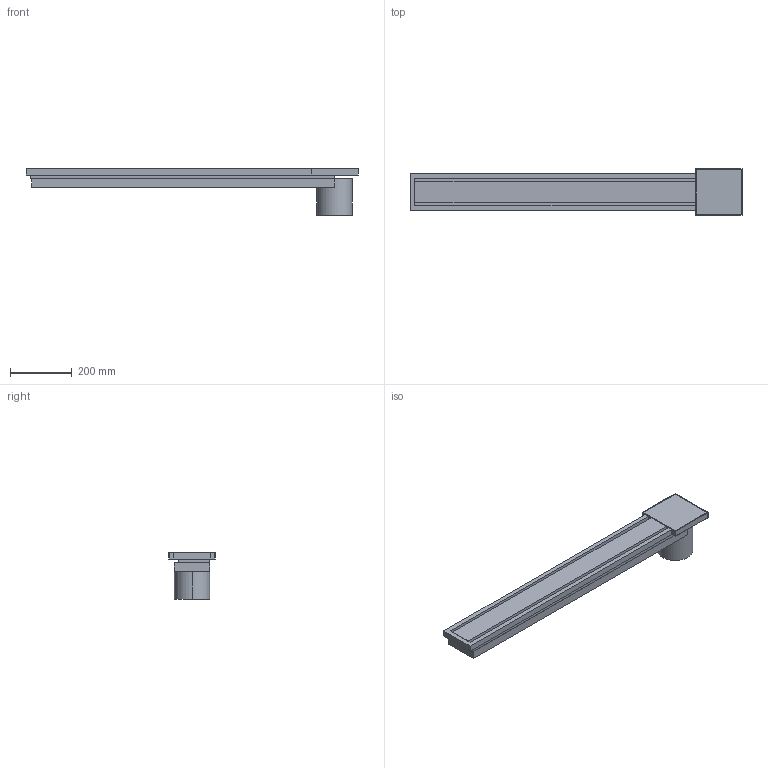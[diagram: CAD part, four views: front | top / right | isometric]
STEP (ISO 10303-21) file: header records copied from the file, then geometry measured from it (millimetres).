
FILE_DESCRIPTION(/* description */ (''),/* implementation_level */ '2;1');
FILE_NAME(/* name */ 'E:\Workspace\resitec\Packs\Kategorie\Entwässerungsrinne\STP\RS770.15.150Entwässerungsrinne mit Auslaufkasten151mm-Ende.s.ipt.stp',/* time_stamp */ '2020-10-04T20:56:05+02:00',/* author */ ('ndmes'),/* organization */ (''),/* preprocessor_version */ 'ST-DEVELOPER v18.1',/* originating_system */ 'Autodesk Inventor 2021',/* authorisation */ '');
FILE_SCHEMA (('AUTOMOTIVE_DESIGN { 1 0 10303 214 3 1 1 }'));
Length unit declared in the file: millimetre
Products named in the file (1): RS770.15.150Entwässerungsrinne mit Auslaufkasten151mm-Ende.s
Bounding box: 1075.5 x 151 x 150 mm (x, y, z)
Volume: 7890764.7 mm3; surface area: 961097.5 mm2
Topology: 7 solids, 7 shells, 48 faces, 102 edges, 68 vertices
Faces by surface type: plane 46, cylinder 2
Entity records: 1309 total; most frequent: CARTESIAN_POINT 219, ORIENTED_EDGE 204, DIRECTION 204, EDGE_CURVE 102, LINE 98, VECTOR 98, VERTEX_POINT 68, AXIS2_PLACEMENT_3D 53
